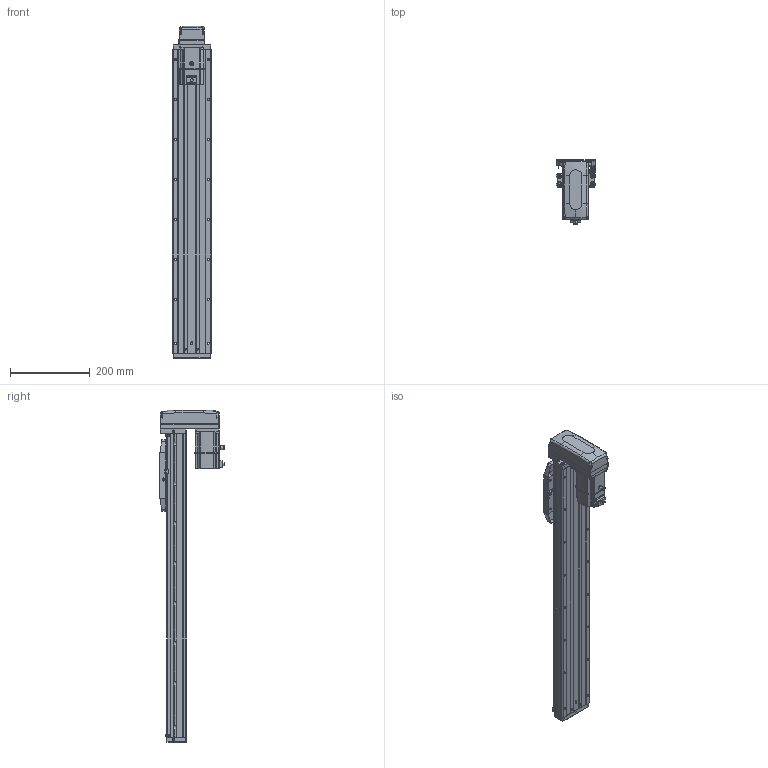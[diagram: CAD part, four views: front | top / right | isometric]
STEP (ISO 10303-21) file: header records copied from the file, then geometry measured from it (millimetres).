
FILE_DESCRIPTION (( 'STEP AP203' ), '1' );
FILE_NAME ('CTHA100-550-BM-M20-C4L.step', '2022-07-06T09:04:34', ( '微软用户' ), ( '微软中国' ), 'SwSTEP 2.0', 'SolidWorks 2020', '' );
FILE_SCHEMA (( 'CONFIG_CONTROL_DESIGN' ));
Length unit declared in the file: millimetre
Products named in the file (19): EE_SX911P_R; _X2_4E0983F1_X0_200W_1; CTHA100-550-BM-M20-C4L; CTHA60-017; CTHA100-002; CTHA60-021; CTHA100-031; KTHA100-001_760; GBT77-2000 M3×3; CTHA86-030; KTHA100-004; GBT 70.1-M3℅6; GBT 70.3-M3℅6; KTHA100-005; GBT70.1 M5℅16; CTHA86-015-1_CTHA86-015-2; GB¨uT 70.2-M3¡Á5_M3¡Á6; CTHA60-016; CTHA86-033
Assembly tree (64 placements, depth 2):
  CTHA100-550-BM-M20-C4L
    KTHA100-001_760
    KTHA100-004
    KTHA100-005
    GB¨uT 70.2-M3¡Á5_M3¡Á6  x10
    EE_SX911P_R  x3
    CTHA60-017  x3
    CTHA60-021  x2
    GBT77-2000 M3×3  x6
    GBT 70.1-M3℅6  x10
    GBT70.1 M5℅16  x14
    CTHA60-016  x2
    _X2_4E0983F1_X0_200W_1
    CTHA100-002
    CTHA100-031
    CTHA86-030  x2
    GBT 70.3-M3℅6  x4
    CTHA86-015-1_CTHA86-015-2
    CTHA86-033
Bounding box: 98.82 x 163.2 x 831 mm (x, y, z)
Volume: 3582107.1 mm3; surface area: 610099.6 mm2
Topology: 66 solids, 66 shells, 2669 faces, 6415 edges, 3976 vertices
Faces by surface type: plane 1392, cylinder 701, cone 353, torus 124, bspline 75, sphere 24
Entity records: 45992 total; most frequent: CARTESIAN_POINT 9035, DIRECTION 7094, ORIENTED_EDGE 6946, EDGE_CURVE 3473, AXIS2_PLACEMENT_3D 2407, LINE 2280, VECTOR 2280, VERTEX_POINT 2196
